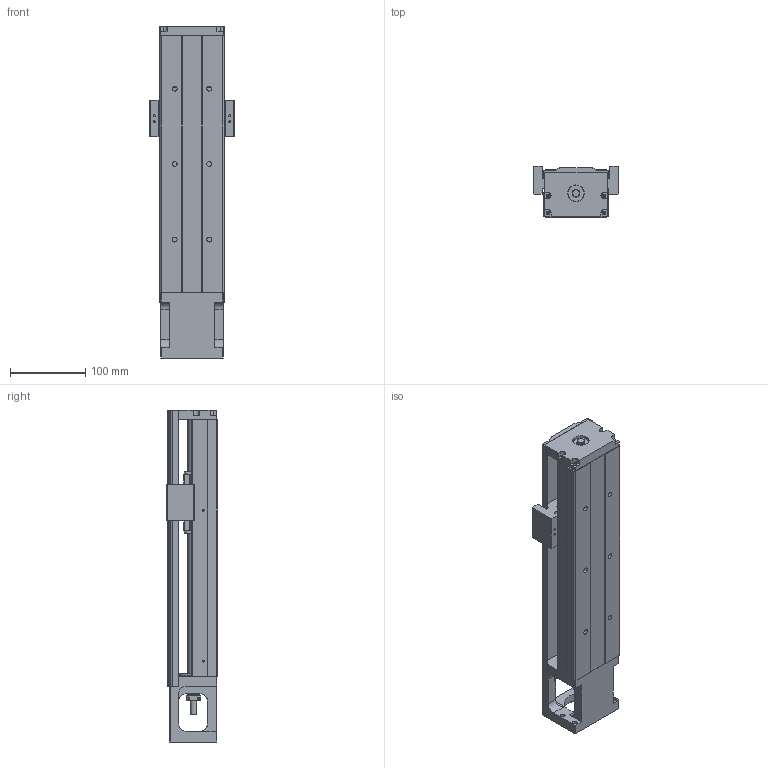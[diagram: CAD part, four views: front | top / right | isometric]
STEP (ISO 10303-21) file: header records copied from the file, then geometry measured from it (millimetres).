
FILE_DESCRIPTION(/* description */ (''),/* implementation_level */ '2;1');
FILE_NAME(/* name */ '46S-340C.stp',/* time_stamp */ '2016-12-20T14:04:25+08:00',/* author */ (''),/* organization */ (''),/* preprocessor_version */ 'ST-DEVELOPER v11',/* originating_system */ 'SIEMENS UGS NX 6.0',/* authorisation */ '');
FILE_SCHEMA (('AUTOMOTIVE_DESIGN { 1 0 10303 214 1 1 1 1 }'));
Length unit declared in the file: millimetre
Products named in the file (1): model4
Bounding box: 112 x 68 x 440 mm (x, y, z)
Volume: 1242322.1 mm3; surface area: 309331.3 mm2
Topology: 7 solids, 18 shells, 659 faces, 1731 edges, 1151 vertices
Faces by surface type: plane 331, cylinder 236, cone 49, bspline 35, torus 8
Full cylindrical faces by diameter (mm): 2 x2, 2.11 x2, 2.15 x4, 2.42 x6, 2.5 x4, 3 x4, 3.2 x4, 3.3 x12, 3.4 x8, 4 x6, 4.2 x4, 4.5 x8, 5 x8, 6 x8, 6.35 x2, 6.6 x6, 6.7 x2, 8 x1, 8.7 x4, 9.6 x1, 10 x3, 11 x6, 12 x1, 14.95 x2, 15 x1, 16 x2, 22 x3, 27.5 x1, 44 x1, 50 x1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
Entity records: 30538 total; most frequent: CARTESIAN_POINT 12607, ORIENTED_EDGE 3010, DIRECTION 2961, EDGE_CURVE 1505, VERTEX_POINT 1085, AXIS2_PLACEMENT_3D 1084, EDGE_LOOP 922, LINE 793
